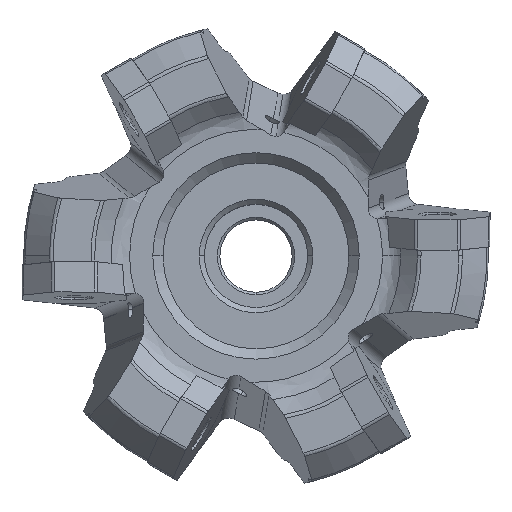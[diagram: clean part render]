
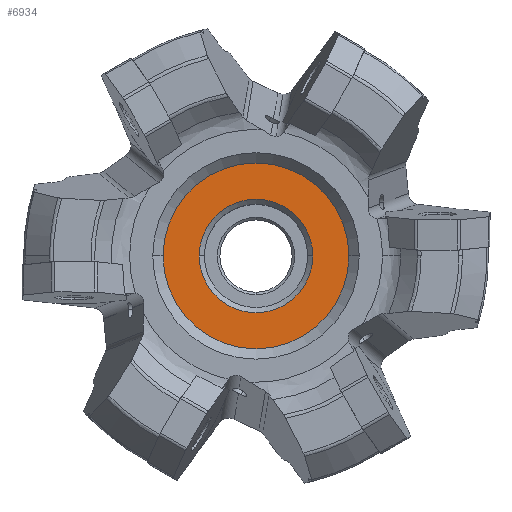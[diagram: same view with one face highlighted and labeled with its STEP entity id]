
A CAD part, top view. The second image highlights one B-rep face of the part: STEP entity #6934.
In plain terms, the highlighted planar face has unit normal (0, 0, 1).
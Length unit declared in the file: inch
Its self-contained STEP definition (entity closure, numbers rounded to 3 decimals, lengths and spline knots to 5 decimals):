
#1361 = DIRECTION ( 'NONE',  ( 1., 0., 0. ) ) ;
#1888 = FACE_OUTER_BOUND ( 'NONE', #8167, .T. ) ;
#1897 = EDGE_CURVE ( 'NONE', #3065, #6326, #7822, .T. ) ;
#2020 = DIRECTION ( 'NONE',  ( 0., 0., 1. ) ) ;
#2133 = CARTESIAN_POINT ( 'NONE',  ( 0.43307, 0., 1.65354 ) ) ;
#2384 = AXIS2_PLACEMENT_3D ( 'NONE', #3069, #10074, #1361 ) ;
#2527 = AXIS2_PLACEMENT_3D ( 'NONE', #11749, #2020, #8833 ) ;
#3065 = VERTEX_POINT ( 'NONE', #6566 ) ;
#3069 = CARTESIAN_POINT ( 'NONE',  ( 0., 0., 1.65354 ) ) ;
#3504 = CIRCLE ( 'NONE', #5134, 0.43307 ) ;
#3813 = DIRECTION ( 'NONE',  ( 1., 0., 0. ) ) ;
#3849 = DIRECTION ( 'NONE',  ( 1., 0., 0. ) ) ;
#4046 = AXIS2_PLACEMENT_3D ( 'NONE', #11683, #11744, #3849 ) ;
#4114 = AXIS2_PLACEMENT_3D ( 'NONE', #6751, #5846, #3813 ) ;
#5016 = CIRCLE ( 'NONE', #2384, 0.70866 ) ;
#5107 = EDGE_CURVE ( 'NONE', #11908, #5787, #7990, .T. ) ;
#5131 = EDGE_CURVE ( 'NONE', #5787, #11908, #3504, .T. ) ;
#5134 = AXIS2_PLACEMENT_3D ( 'NONE', #10687, #8317, #8608 ) ;
#5787 = VERTEX_POINT ( 'NONE', #2133 ) ;
#5846 = DIRECTION ( 'NONE',  ( 0., 0., -1. ) ) ;
#6326 = VERTEX_POINT ( 'NONE', #6369 ) ;
#6369 = CARTESIAN_POINT ( 'NONE',  ( 0.70866, 0., 1.65354 ) ) ;
#6566 = CARTESIAN_POINT ( 'NONE',  ( -0.70866, 0., 1.65354 ) ) ;
#6751 = CARTESIAN_POINT ( 'NONE',  ( 0., 0., 1.65354 ) ) ;
#6934 = ADVANCED_FACE ( 'NONE', ( #1888, #7871 ), #7937, .T. ) ;
#7495 = ORIENTED_EDGE ( 'NONE', *, *, #1897, .T. ) ;
#7822 = CIRCLE ( 'NONE', #2527, 0.70866 ) ;
#7871 = FACE_BOUND ( 'NONE', #9397, .T. ) ;
#7937 = PLANE ( 'NONE',  #4046 ) ;
#7990 = CIRCLE ( 'NONE', #4114, 0.43307 ) ;
#8167 = EDGE_LOOP ( 'NONE', ( #9730, #7495 ) ) ;
#8317 = DIRECTION ( 'NONE',  ( 0., 0., -1. ) ) ;
#8608 = DIRECTION ( 'NONE',  ( 1., 0., 0. ) ) ;
#8833 = DIRECTION ( 'NONE',  ( 1., 0., 0. ) ) ;
#9397 = EDGE_LOOP ( 'NONE', ( #9477, #9719 ) ) ;
#9477 = ORIENTED_EDGE ( 'NONE', *, *, #5131, .T. ) ;
#9719 = ORIENTED_EDGE ( 'NONE', *, *, #5107, .T. ) ;
#9730 = ORIENTED_EDGE ( 'NONE', *, *, #10183, .T. ) ;
#10074 = DIRECTION ( 'NONE',  ( 0., 0., 1. ) ) ;
#10183 = EDGE_CURVE ( 'NONE', #6326, #3065, #5016, .T. ) ;
#10687 = CARTESIAN_POINT ( 'NONE',  ( 0., 0., 1.65354 ) ) ;
#11248 = CARTESIAN_POINT ( 'NONE',  ( -0.43307, 0., 1.65354 ) ) ;
#11683 = CARTESIAN_POINT ( 'NONE',  ( 0.3937, 0., 1.65354 ) ) ;
#11744 = DIRECTION ( 'NONE',  ( 0., 0., 1. ) ) ;
#11749 = CARTESIAN_POINT ( 'NONE',  ( 0., 0., 1.65354 ) ) ;
#11908 = VERTEX_POINT ( 'NONE', #11248 ) ;
